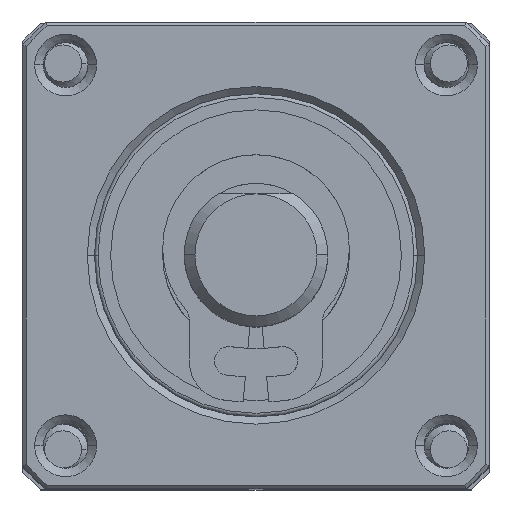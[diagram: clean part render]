
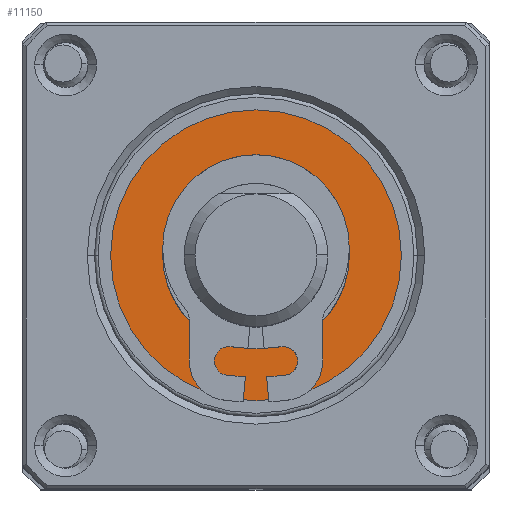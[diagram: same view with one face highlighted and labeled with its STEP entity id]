
A CAD part, top view. The second image highlights one B-rep face of the part: STEP entity #11150.
In plain terms, the highlighted planar face has unit normal (0, 0, 1).
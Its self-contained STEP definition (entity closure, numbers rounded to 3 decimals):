
#109 = DIRECTION ( 'NONE',  ( 1., 0., 0. ) ) ;
#1079 = PLANE ( 'NONE',  #6153 ) ;
#1193 = CARTESIAN_POINT ( 'NONE',  ( 0., 0., 19.934 ) ) ;
#1515 = EDGE_LOOP ( 'NONE', ( #10185, #12939 ) ) ;
#1537 = EDGE_CURVE ( 'NONE', #8106, #9290, #9467, .T. ) ;
#1604 = CARTESIAN_POINT ( 'NONE',  ( 0., 0., 19.934 ) ) ;
#1677 = CARTESIAN_POINT ( 'NONE',  ( 0., 0., 19.934 ) ) ;
#1731 = VERTEX_POINT ( 'NONE', #13868 ) ;
#2045 = EDGE_CURVE ( 'NONE', #9290, #8106, #9355, .T. ) ;
#2140 = DIRECTION ( 'NONE',  ( 0., 1., 0. ) ) ;
#4921 = AXIS2_PLACEMENT_3D ( 'NONE', #1677, #8572, #7308 ) ;
#6153 = AXIS2_PLACEMENT_3D ( 'NONE', #6890, #11002, #2140 ) ;
#6890 = CARTESIAN_POINT ( 'NONE',  ( 0., 2.6, 19.934 ) ) ;
#7009 = DIRECTION ( 'NONE',  ( 0., 0., 1. ) ) ;
#7228 = DIRECTION ( 'NONE',  ( 1., 0., 0. ) ) ;
#7308 = DIRECTION ( 'NONE',  ( 1., 0., 0. ) ) ;
#7546 = ORIENTED_EDGE ( 'NONE', *, *, #2045, .T. ) ;
#8038 = AXIS2_PLACEMENT_3D ( 'NONE', #1604, #14492, #7228 ) ;
#8106 = VERTEX_POINT ( 'NONE', #14096 ) ;
#8247 = AXIS2_PLACEMENT_3D ( 'NONE', #1193, #7009, #17230 ) ;
#8572 = DIRECTION ( 'NONE',  ( 0., 0., 1. ) ) ;
#9082 = DIRECTION ( 'NONE',  ( 0., 0., 1. ) ) ;
#9290 = VERTEX_POINT ( 'NONE', #13026 ) ;
#9355 = CIRCLE ( 'NONE', #12383, 4.05 ) ;
#9467 = CIRCLE ( 'NONE', #8247, 4.05 ) ;
#10185 = ORIENTED_EDGE ( 'NONE', *, *, #14241, .F. ) ;
#10554 = EDGE_CURVE ( 'NONE', #18228, #1731, #16194, .T. ) ;
#11002 = DIRECTION ( 'NONE',  ( 0., 0., 1. ) ) ;
#11150 = ADVANCED_FACE ( 'NONE', ( #15213, #18442 ), #1079, .T. ) ;
#12026 = EDGE_LOOP ( 'NONE', ( #7546, #12971 ) ) ;
#12383 = AXIS2_PLACEMENT_3D ( 'NONE', #13181, #9082, #109 ) ;
#12939 = ORIENTED_EDGE ( 'NONE', *, *, #10554, .F. ) ;
#12971 = ORIENTED_EDGE ( 'NONE', *, *, #1537, .T. ) ;
#13026 = CARTESIAN_POINT ( 'NONE',  ( 4.05, 0., 19.934 ) ) ;
#13181 = CARTESIAN_POINT ( 'NONE',  ( 0., 0., 19.934 ) ) ;
#13868 = CARTESIAN_POINT ( 'NONE',  ( 0., -2.6, 19.934 ) ) ;
#14096 = CARTESIAN_POINT ( 'NONE',  ( -4.05, 0., 19.934 ) ) ;
#14241 = EDGE_CURVE ( 'NONE', #1731, #18228, #16248, .T. ) ;
#14492 = DIRECTION ( 'NONE',  ( 0., 0., 1. ) ) ;
#15213 = FACE_BOUND ( 'NONE', #1515, .T. ) ;
#16194 = CIRCLE ( 'NONE', #4921, 2.6 ) ;
#16248 = CIRCLE ( 'NONE', #8038, 2.6 ) ;
#17230 = DIRECTION ( 'NONE',  ( 1., 0., 0. ) ) ;
#18222 = CARTESIAN_POINT ( 'NONE',  ( 0., 2.6, 19.934 ) ) ;
#18228 = VERTEX_POINT ( 'NONE', #18222 ) ;
#18442 = FACE_OUTER_BOUND ( 'NONE', #12026, .T. ) ;
